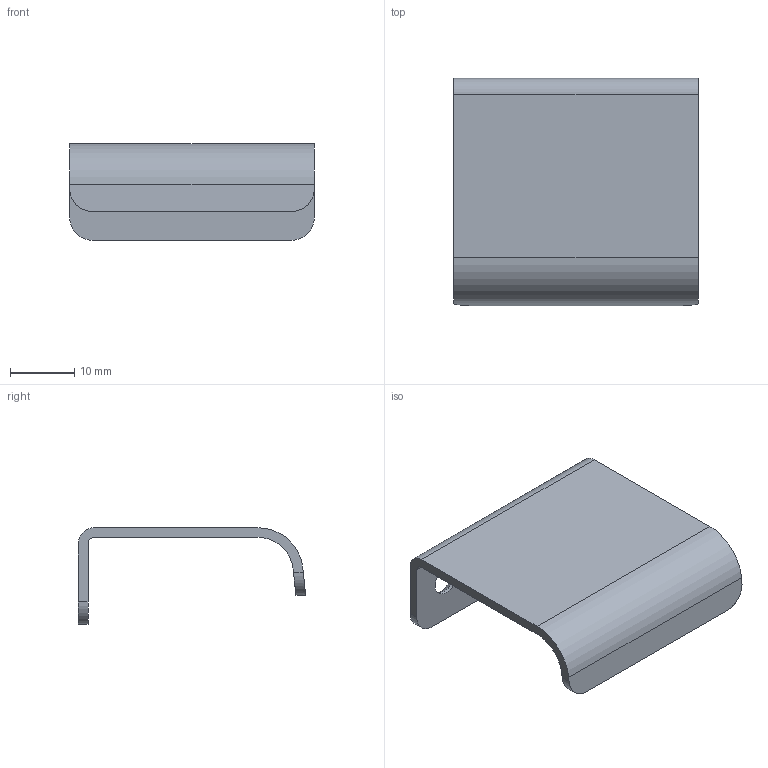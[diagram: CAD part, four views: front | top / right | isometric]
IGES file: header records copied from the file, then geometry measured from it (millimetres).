
Start section: Data from Parasolid IGES Translator 15.0.47, Copyright(c) 2006 Siemens P LM Software. All Rights Reserved.
Global section: file name: 9995540.igs; native system:  By UGS Corp.; preprocessor: XPlus GENERIC/IGES 3.0; author: Noname; organization: Noname; date: 20140123.104132; units: millimetre
Bounding box: 38 x 35.33 x 15 mm (x, y, z)
Surface area: 4306.1 mm2 (no closed solid volume)
Topology: 0 solids, 0 shells, 22 faces, 120 edges, 118 vertices
Faces by surface type: revolution 12, extrusion 10
